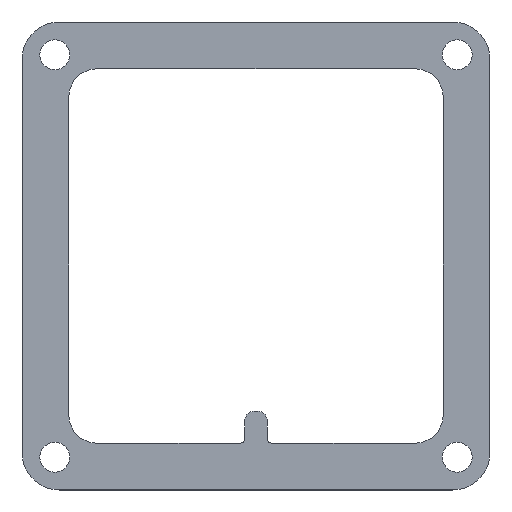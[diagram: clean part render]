
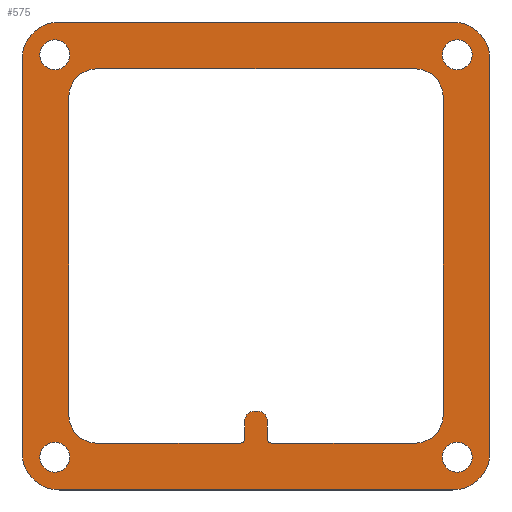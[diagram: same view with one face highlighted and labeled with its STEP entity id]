
A CAD part, top view. The second image highlights one B-rep face of the part: STEP entity #575.
In plain terms, the highlighted planar face has unit normal (0, 0, 1).
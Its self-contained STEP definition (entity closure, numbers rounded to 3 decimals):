
#15=FACE_BOUND('',#76,.T.);
#16=FACE_BOUND('',#77,.T.);
#17=FACE_BOUND('',#78,.T.);
#18=FACE_BOUND('',#79,.T.);
#19=FACE_BOUND('',#80,.T.);
#28=PLANE('',#634);
#45=FACE_OUTER_BOUND('',#75,.T.);
#75=EDGE_LOOP('',(#409,#410,#411,#412,#413,#414,#415,#416));
#76=EDGE_LOOP('',(#417));
#77=EDGE_LOOP('',(#418));
#78=EDGE_LOOP('',(#419));
#79=EDGE_LOOP('',(#420));
#80=EDGE_LOOP('',(#421,#422,#423,#424,#425,#426,#427,#428,#429,#430,#431,
#432,#433,#434,#435,#436));
#113=LINE('',#877,#165);
#118=LINE('',#892,#170);
#121=LINE('',#904,#173);
#124=LINE('',#910,#176);
#125=LINE('',#914,#177);
#126=LINE('',#918,#178);
#127=LINE('',#930,#179);
#128=LINE('',#934,#180);
#129=LINE('',#938,#181);
#130=LINE('',#941,#182);
#131=LINE('',#945,#183);
#132=LINE('',#948,#184);
#165=VECTOR('',#698,10.);
#170=VECTOR('',#711,10.);
#173=VECTOR('',#722,10.);
#176=VECTOR('',#727,10.);
#177=VECTOR('',#730,10.);
#178=VECTOR('',#733,10.);
#179=VECTOR('',#744,10.);
#180=VECTOR('',#747,10.);
#181=VECTOR('',#750,10.);
#182=VECTOR('',#753,10.);
#183=VECTOR('',#756,10.);
#184=VECTOR('',#759,10.);
#214=CIRCLE('',#624,0.5);
#216=CIRCLE('',#628,0.5);
#217=CIRCLE('',#631,4.);
#219=CIRCLE('',#635,4.);
#220=CIRCLE('',#636,4.);
#221=CIRCLE('',#637,4.);
#222=CIRCLE('',#638,1.6);
#223=CIRCLE('',#639,1.6);
#224=CIRCLE('',#640,1.6);
#225=CIRCLE('',#641,1.6);
#226=CIRCLE('',#642,3.);
#227=CIRCLE('',#643,3.);
#228=CIRCLE('',#644,3.);
#229=CIRCLE('',#645,1.);
#230=CIRCLE('',#646,1.);
#231=CIRCLE('',#647,3.);
#247=VERTEX_POINT('',#867);
#248=VERTEX_POINT('',#869);
#250=VERTEX_POINT('',#875);
#253=VERTEX_POINT('',#882);
#254=VERTEX_POINT('',#884);
#256=VERTEX_POINT('',#890);
#257=VERTEX_POINT('',#894);
#258=VERTEX_POINT('',#895);
#261=VERTEX_POINT('',#903);
#263=VERTEX_POINT('',#909);
#264=VERTEX_POINT('',#911);
#265=VERTEX_POINT('',#913);
#266=VERTEX_POINT('',#915);
#267=VERTEX_POINT('',#917);
#268=VERTEX_POINT('',#920);
#269=VERTEX_POINT('',#922);
#270=VERTEX_POINT('',#924);
#271=VERTEX_POINT('',#926);
#272=VERTEX_POINT('',#928);
#273=VERTEX_POINT('',#929);
#274=VERTEX_POINT('',#931);
#275=VERTEX_POINT('',#933);
#276=VERTEX_POINT('',#935);
#277=VERTEX_POINT('',#937);
#278=VERTEX_POINT('',#939);
#279=VERTEX_POINT('',#942);
#280=VERTEX_POINT('',#944);
#281=VERTEX_POINT('',#946);
#303=EDGE_CURVE('',#247,#248,#214,.T.);
#307=EDGE_CURVE('',#247,#250,#113,.T.);
#310=EDGE_CURVE('',#253,#254,#216,.T.);
#314=EDGE_CURVE('',#253,#256,#118,.T.);
#315=EDGE_CURVE('',#257,#258,#217,.T.);
#319=EDGE_CURVE('',#261,#258,#121,.T.);
#322=EDGE_CURVE('',#257,#263,#124,.T.);
#323=EDGE_CURVE('',#264,#263,#219,.T.);
#324=EDGE_CURVE('',#264,#265,#125,.T.);
#325=EDGE_CURVE('',#266,#265,#220,.T.);
#326=EDGE_CURVE('',#266,#267,#126,.T.);
#327=EDGE_CURVE('',#261,#267,#221,.T.);
#328=EDGE_CURVE('',#268,#268,#222,.T.);
#329=EDGE_CURVE('',#269,#269,#223,.T.);
#330=EDGE_CURVE('',#270,#270,#224,.T.);
#331=EDGE_CURVE('',#271,#271,#225,.T.);
#332=EDGE_CURVE('',#272,#273,#127,.T.);
#333=EDGE_CURVE('',#274,#273,#226,.T.);
#334=EDGE_CURVE('',#274,#275,#128,.T.);
#335=EDGE_CURVE('',#276,#275,#227,.T.);
#336=EDGE_CURVE('',#276,#277,#129,.T.);
#337=EDGE_CURVE('',#278,#277,#228,.T.);
#338=EDGE_CURVE('',#278,#254,#130,.T.);
#339=EDGE_CURVE('',#256,#279,#229,.T.);
#340=EDGE_CURVE('',#279,#280,#131,.T.);
#341=EDGE_CURVE('',#280,#281,#230,.T.);
#342=EDGE_CURVE('',#281,#248,#132,.T.);
#343=EDGE_CURVE('',#272,#250,#231,.T.);
#409=ORIENTED_EDGE('',*,*,#315,.F.);
#410=ORIENTED_EDGE('',*,*,#322,.T.);
#411=ORIENTED_EDGE('',*,*,#323,.F.);
#412=ORIENTED_EDGE('',*,*,#324,.T.);
#413=ORIENTED_EDGE('',*,*,#325,.F.);
#414=ORIENTED_EDGE('',*,*,#326,.T.);
#415=ORIENTED_EDGE('',*,*,#327,.F.);
#416=ORIENTED_EDGE('',*,*,#319,.T.);
#417=ORIENTED_EDGE('',*,*,#328,.T.);
#418=ORIENTED_EDGE('',*,*,#329,.T.);
#419=ORIENTED_EDGE('',*,*,#330,.T.);
#420=ORIENTED_EDGE('',*,*,#331,.T.);
#421=ORIENTED_EDGE('',*,*,#332,.T.);
#422=ORIENTED_EDGE('',*,*,#333,.F.);
#423=ORIENTED_EDGE('',*,*,#334,.T.);
#424=ORIENTED_EDGE('',*,*,#335,.F.);
#425=ORIENTED_EDGE('',*,*,#336,.T.);
#426=ORIENTED_EDGE('',*,*,#337,.F.);
#427=ORIENTED_EDGE('',*,*,#338,.T.);
#428=ORIENTED_EDGE('',*,*,#310,.F.);
#429=ORIENTED_EDGE('',*,*,#314,.T.);
#430=ORIENTED_EDGE('',*,*,#339,.T.);
#431=ORIENTED_EDGE('',*,*,#340,.T.);
#432=ORIENTED_EDGE('',*,*,#341,.T.);
#433=ORIENTED_EDGE('',*,*,#342,.T.);
#434=ORIENTED_EDGE('',*,*,#303,.F.);
#435=ORIENTED_EDGE('',*,*,#307,.T.);
#436=ORIENTED_EDGE('',*,*,#343,.F.);
#575=ADVANCED_FACE('',(#45,#15,#16,#17,#18,#19),#28,.T.);
#624=AXIS2_PLACEMENT_3D('',#870,#691,#692);
#628=AXIS2_PLACEMENT_3D('',#885,#704,#705);
#631=AXIS2_PLACEMENT_3D('',#896,#714,#715);
#634=AXIS2_PLACEMENT_3D('',#908,#725,#726);
#635=AXIS2_PLACEMENT_3D('',#912,#728,#729);
#636=AXIS2_PLACEMENT_3D('',#916,#731,#732);
#637=AXIS2_PLACEMENT_3D('',#919,#734,#735);
#638=AXIS2_PLACEMENT_3D('',#921,#736,#737);
#639=AXIS2_PLACEMENT_3D('',#923,#738,#739);
#640=AXIS2_PLACEMENT_3D('',#925,#740,#741);
#641=AXIS2_PLACEMENT_3D('',#927,#742,#743);
#642=AXIS2_PLACEMENT_3D('',#932,#745,#746);
#643=AXIS2_PLACEMENT_3D('',#936,#748,#749);
#644=AXIS2_PLACEMENT_3D('',#940,#751,#752);
#645=AXIS2_PLACEMENT_3D('',#943,#754,#755);
#646=AXIS2_PLACEMENT_3D('',#947,#757,#758);
#647=AXIS2_PLACEMENT_3D('',#949,#760,#761);
#691=DIRECTION('center_axis',(0.,0.,1.));
#692=DIRECTION('ref_axis',(0.707,-0.707,0.));
#698=DIRECTION('',(-1.,0.,0.));
#704=DIRECTION('center_axis',(0.,0.,1.));
#705=DIRECTION('ref_axis',(-0.707,-0.707,0.));
#711=DIRECTION('',(0.,1.,0.));
#714=DIRECTION('center_axis',(0.,0.,-1.));
#715=DIRECTION('ref_axis',(-0.707,0.707,0.));
#722=DIRECTION('',(-1.,0.,0.));
#725=DIRECTION('center_axis',(0.,0.,1.));
#726=DIRECTION('ref_axis',(1.,0.,0.));
#727=DIRECTION('',(0.,-1.,0.));
#728=DIRECTION('center_axis',(0.,0.,-1.));
#729=DIRECTION('ref_axis',(-0.707,-0.707,0.));
#730=DIRECTION('',(1.,0.,0.));
#731=DIRECTION('center_axis',(0.,0.,-1.));
#732=DIRECTION('ref_axis',(0.707,-0.707,0.));
#733=DIRECTION('',(0.,1.,0.));
#734=DIRECTION('center_axis',(0.,0.,-1.));
#735=DIRECTION('ref_axis',(0.707,0.707,0.));
#736=DIRECTION('center_axis',(0.,0.,-1.));
#737=DIRECTION('ref_axis',(1.,0.,0.));
#738=DIRECTION('center_axis',(0.,0.,-1.));
#739=DIRECTION('ref_axis',(1.,0.,0.));
#740=DIRECTION('center_axis',(0.,0.,-1.));
#741=DIRECTION('ref_axis',(1.,0.,0.));
#742=DIRECTION('center_axis',(0.,0.,-1.));
#743=DIRECTION('ref_axis',(1.,0.,0.));
#744=DIRECTION('',(0.,1.,0.));
#745=DIRECTION('center_axis',(0.,0.,1.));
#746=DIRECTION('ref_axis',(-0.707,0.707,0.));
#747=DIRECTION('',(1.,0.,0.));
#748=DIRECTION('center_axis',(0.,0.,1.));
#749=DIRECTION('ref_axis',(0.707,0.707,0.));
#750=DIRECTION('',(0.,-1.,0.));
#751=DIRECTION('center_axis',(0.,0.,1.));
#752=DIRECTION('ref_axis',(0.707,-0.707,0.));
#753=DIRECTION('',(-1.,0.,0.));
#754=DIRECTION('center_axis',(0.,0.,1.));
#755=DIRECTION('ref_axis',(1.,0.,0.));
#756=DIRECTION('',(-1.,0.,0.));
#757=DIRECTION('center_axis',(0.,0.,1.));
#758=DIRECTION('ref_axis',(0.,1.,0.));
#759=DIRECTION('',(0.,-1.,0.));
#760=DIRECTION('center_axis',(0.,0.,1.));
#761=DIRECTION('ref_axis',(-0.707,-0.707,0.));
#867=CARTESIAN_POINT('',(-1.7,-20.,0.8));
#869=CARTESIAN_POINT('',(-1.2,-19.5,0.8));
#870=CARTESIAN_POINT('Origin',(-1.7,-19.5,0.8));
#875=CARTESIAN_POINT('',(-17.,-20.,0.8));
#877=CARTESIAN_POINT('',(20.,-20.,0.8));
#882=CARTESIAN_POINT('',(1.2,-19.5,0.8));
#884=CARTESIAN_POINT('',(1.7,-20.,0.8));
#885=CARTESIAN_POINT('Origin',(1.7,-19.5,0.8));
#890=CARTESIAN_POINT('',(1.2,-17.6,0.8));
#892=CARTESIAN_POINT('',(1.2,-20.,0.8));
#894=CARTESIAN_POINT('',(-25.,21.,0.8));
#895=CARTESIAN_POINT('',(-21.,25.,0.8));
#896=CARTESIAN_POINT('Origin',(-21.,21.,0.8));
#903=CARTESIAN_POINT('',(21.,25.,0.8));
#904=CARTESIAN_POINT('',(25.,25.,0.8));
#908=CARTESIAN_POINT('Origin',(0.,0.,0.8));
#909=CARTESIAN_POINT('',(-25.,-21.,0.8));
#910=CARTESIAN_POINT('',(-25.,25.,0.8));
#911=CARTESIAN_POINT('',(-21.,-25.,0.8));
#912=CARTESIAN_POINT('Origin',(-21.,-21.,0.8));
#913=CARTESIAN_POINT('',(21.,-25.,0.8));
#914=CARTESIAN_POINT('',(-25.,-25.,0.8));
#915=CARTESIAN_POINT('',(25.,-21.,0.8));
#916=CARTESIAN_POINT('Origin',(21.,-21.,0.8));
#917=CARTESIAN_POINT('',(25.,21.,0.8));
#918=CARTESIAN_POINT('',(25.,-25.,0.8));
#919=CARTESIAN_POINT('Origin',(21.,21.,0.8));
#920=CARTESIAN_POINT('',(19.9,-21.5,0.8));
#921=CARTESIAN_POINT('Origin',(21.5,-21.5,0.8));
#922=CARTESIAN_POINT('',(-23.1,-21.5,0.8));
#923=CARTESIAN_POINT('Origin',(-21.5,-21.5,0.8));
#924=CARTESIAN_POINT('',(19.9,21.5,0.8));
#925=CARTESIAN_POINT('Origin',(21.5,21.5,0.8));
#926=CARTESIAN_POINT('',(-23.1,21.5,0.8));
#927=CARTESIAN_POINT('Origin',(-21.5,21.5,0.8));
#928=CARTESIAN_POINT('',(-20.,-17.,0.8));
#929=CARTESIAN_POINT('',(-20.,17.,0.8));
#930=CARTESIAN_POINT('',(-20.,-20.,0.8));
#931=CARTESIAN_POINT('',(-17.,20.,0.8));
#932=CARTESIAN_POINT('Origin',(-17.,17.,0.8));
#933=CARTESIAN_POINT('',(17.,20.,0.8));
#934=CARTESIAN_POINT('',(-20.,20.,0.8));
#935=CARTESIAN_POINT('',(20.,17.,0.8));
#936=CARTESIAN_POINT('Origin',(17.,17.,0.8));
#937=CARTESIAN_POINT('',(20.,-17.,0.8));
#938=CARTESIAN_POINT('',(20.,20.,0.8));
#939=CARTESIAN_POINT('',(17.,-20.,0.8));
#940=CARTESIAN_POINT('Origin',(17.,-17.,0.8));
#941=CARTESIAN_POINT('',(20.,-20.,0.8));
#942=CARTESIAN_POINT('',(0.2,-16.6,0.8));
#943=CARTESIAN_POINT('Origin',(0.2,-17.6,0.8));
#944=CARTESIAN_POINT('',(-0.2,-16.6,0.8));
#945=CARTESIAN_POINT('',(0.2,-16.6,0.8));
#946=CARTESIAN_POINT('',(-1.2,-17.6,0.8));
#947=CARTESIAN_POINT('Origin',(-0.2,-17.6,0.8));
#948=CARTESIAN_POINT('',(-1.2,-17.6,0.8));
#949=CARTESIAN_POINT('Origin',(-17.,-17.,0.8));
